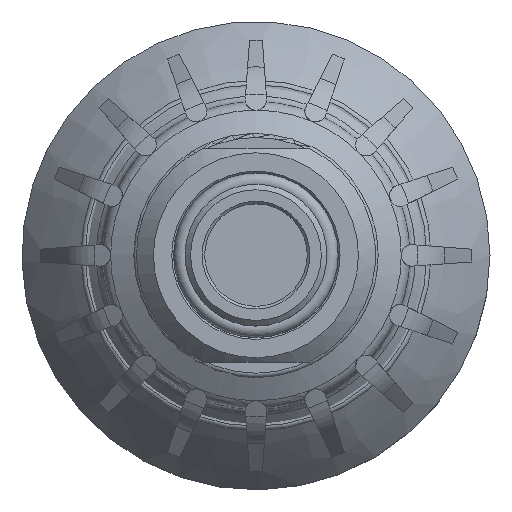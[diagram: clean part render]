
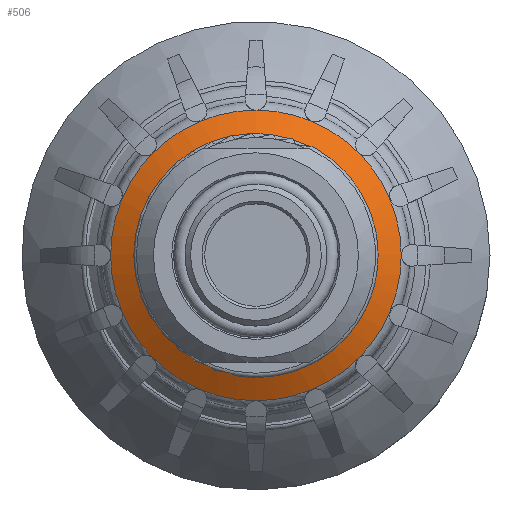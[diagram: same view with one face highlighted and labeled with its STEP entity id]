
A CAD part, top view. The second image highlights one B-rep face of the part: STEP entity #506.
In plain terms, the highlighted conical face has half-angle 59.914 degrees and reference radius 17.009 mm.
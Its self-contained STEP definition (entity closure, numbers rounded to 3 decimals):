
#506 = ADVANCED_FACE( '', ( #1572, #1573 ), #1574, .T. );
#1572 = FACE_OUTER_BOUND( '', #3103, .T. );
#1573 = FACE_BOUND( '', #3104, .T. );
#1574 = CONICAL_SURFACE( '', #3105, 17.009, 1.046 );
#3103 = EDGE_LOOP( '', ( #8547, #8548, #8549, #8550, #8551, #8552, #8553, #8554, #8555, #8556, #8557, #8558, #8559, #8560, #8561, #8562 ) );
#3104 = EDGE_LOOP( '', ( #8563 ) );
#3105 = AXIS2_PLACEMENT_3D( '', #8564, #8565, #8566 );
#8547 = ORIENTED_EDGE( '', *, *, #12080, .T. );
#8548 = ORIENTED_EDGE( '', *, *, #12469, .T. );
#8549 = ORIENTED_EDGE( '', *, *, #12397, .T. );
#8550 = ORIENTED_EDGE( '', *, *, #12246, .T. );
#8551 = ORIENTED_EDGE( '', *, *, #12470, .T. );
#8552 = ORIENTED_EDGE( '', *, *, #12471, .T. );
#8553 = ORIENTED_EDGE( '', *, *, #12472, .T. );
#8554 = ORIENTED_EDGE( '', *, *, #12339, .T. );
#8555 = ORIENTED_EDGE( '', *, *, #12335, .T. );
#8556 = ORIENTED_EDGE( '', *, *, #12473, .T. );
#8557 = ORIENTED_EDGE( '', *, *, #12415, .T. );
#8558 = ORIENTED_EDGE( '', *, *, #12375, .T. );
#8559 = ORIENTED_EDGE( '', *, *, #12474, .T. );
#8560 = ORIENTED_EDGE( '', *, *, #12475, .T. );
#8561 = ORIENTED_EDGE( '', *, *, #12476, .T. );
#8562 = ORIENTED_EDGE( '', *, *, #12477, .T. );
#8563 = ORIENTED_EDGE( '', *, *, #12478, .F. );
#8564 = CARTESIAN_POINT( '', ( 0., 0., 5.231 ) );
#8565 = DIRECTION( '', ( 0., 0., -1. ) );
#8566 = DIRECTION( '', ( -1., 0., 0. ) );
#12080 = EDGE_CURVE( '', #14288, #14402, #14404, .T. );
#12246 = EDGE_CURVE( '', #14703, #14704, #14705, .T. );
#12335 = EDGE_CURVE( '', #14684, #14795, #14854, .T. );
#12339 = EDGE_CURVE( '', #14857, #14684, #14860, .T. );
#12375 = EDGE_CURVE( '', #14916, #14920, #14922, .T. );
#12397 = EDGE_CURVE( '', #14954, #14703, #14959, .T. );
#12415 = EDGE_CURVE( '', #14127, #14916, #14989, .T. );
#12469 = EDGE_CURVE( '', #14402, #14954, #15067, .T. );
#12470 = EDGE_CURVE( '', #14704, #15068, #15069, .T. );
#12471 = EDGE_CURVE( '', #15068, #14972, #15070, .T. );
#12472 = EDGE_CURVE( '', #14972, #14857, #15071, .T. );
#12473 = EDGE_CURVE( '', #14795, #14127, #15072, .T. );
#12474 = EDGE_CURVE( '', #14920, #14982, #15073, .T. );
#12475 = EDGE_CURVE( '', #14982, #14837, #15074, .T. );
#12476 = EDGE_CURVE( '', #14837, #14266, #15075, .T. );
#12477 = EDGE_CURVE( '', #14266, #14288, #15076, .T. );
#12478 = EDGE_CURVE( '', #15077, #15077, #15078, .T. );
#14127 = VERTEX_POINT( '', #18568 );
#14266 = VERTEX_POINT( '', #18930 );
#14288 = VERTEX_POINT( '', #18998 );
#14402 = VERTEX_POINT( '', #19327 );
#14404 = CIRCLE( '', #19342, 17.009 );
#14684 = VERTEX_POINT( '', #20219 );
#14703 = VERTEX_POINT( '', #20291 );
#14704 = VERTEX_POINT( '', #20292 );
#14705 = CIRCLE( '', #20293, 17.009 );
#14795 = VERTEX_POINT( '', #20559 );
#14837 = VERTEX_POINT( '', #20694 );
#14854 = CIRCLE( '', #20771, 17.009 );
#14857 = VERTEX_POINT( '', #20779 );
#14860 = CIRCLE( '', #20795, 17.009 );
#14916 = VERTEX_POINT( '', #20899 );
#14920 = VERTEX_POINT( '', #20916 );
#14922 = CIRCLE( '', #20934, 17.009 );
#14954 = VERTEX_POINT( '', #21011 );
#14959 = CIRCLE( '', #21042, 17.009 );
#14972 = VERTEX_POINT( '', #21074 );
#14982 = VERTEX_POINT( '', #21110 );
#14989 = CIRCLE( '', #21159, 17.009 );
#15067 = CIRCLE( '', #21403, 17.009 );
#15068 = VERTEX_POINT( '', #21404 );
#15069 = CIRCLE( '', #21405, 17.009 );
#15070 = CIRCLE( '', #21406, 17.009 );
#15071 = CIRCLE( '', #21407, 17.009 );
#15072 = CIRCLE( '', #21408, 17.009 );
#15073 = CIRCLE( '', #21409, 17.009 );
#15074 = CIRCLE( '', #21410, 17.009 );
#15075 = CIRCLE( '', #21411, 17.009 );
#15076 = CIRCLE( '', #21412, 17.009 );
#15077 = VERTEX_POINT( '', #21413 );
#15078 = CIRCLE( '', #21414, 13.156 );
#18568 = CARTESIAN_POINT( '', ( -15.715, -6.509, 5.231 ) );
#18930 = CARTESIAN_POINT( '', ( 12.028, -12.028, 5.231 ) );
#18998 = CARTESIAN_POINT( '', ( 15.715, -6.509, 5.231 ) );
#19327 = CARTESIAN_POINT( '', ( 17.009, 0., 5.231 ) );
#19342 = AXIS2_PLACEMENT_3D( '', #29398, #29399, #29400 );
#20219 = CARTESIAN_POINT( '', ( -15.715, 6.509, 5.231 ) );
#20291 = CARTESIAN_POINT( '', ( 12.028, 12.028, 5.231 ) );
#20292 = CARTESIAN_POINT( '', ( 6.509, 15.715, 5.231 ) );
#20293 = AXIS2_PLACEMENT_3D( '', #29559, #29560, #29561 );
#20559 = CARTESIAN_POINT( '', ( -17.009, 0., 5.231 ) );
#20694 = CARTESIAN_POINT( '', ( 6.509, -15.715, 5.231 ) );
#20771 = AXIS2_PLACEMENT_3D( '', #29649, #29650, #29651 );
#20779 = CARTESIAN_POINT( '', ( -12.028, 12.028, 5.231 ) );
#20795 = AXIS2_PLACEMENT_3D( '', #29655, #29656, #29657 );
#20899 = CARTESIAN_POINT( '', ( -12.028, -12.028, 5.231 ) );
#20916 = CARTESIAN_POINT( '', ( -6.509, -15.715, 5.231 ) );
#20934 = AXIS2_PLACEMENT_3D( '', #29717, #29718, #29719 );
#21011 = CARTESIAN_POINT( '', ( 15.715, 6.509, 5.231 ) );
#21042 = AXIS2_PLACEMENT_3D( '', #29753, #29754, #29755 );
#21074 = CARTESIAN_POINT( '', ( -6.509, 15.715, 5.231 ) );
#21110 = CARTESIAN_POINT( '', ( 0., -17.009, 5.231 ) );
#21159 = AXIS2_PLACEMENT_3D( '', #29773, #29774, #29775 );
#21403 = AXIS2_PLACEMENT_3D( '', #29811, #29812, #29813 );
#21404 = CARTESIAN_POINT( '', ( 0., 17.009, 5.231 ) );
#21405 = AXIS2_PLACEMENT_3D( '', #29814, #29815, #29816 );
#21406 = AXIS2_PLACEMENT_3D( '', #29817, #29818, #29819 );
#21407 = AXIS2_PLACEMENT_3D( '', #29820, #29821, #29822 );
#21408 = AXIS2_PLACEMENT_3D( '', #29823, #29824, #29825 );
#21409 = AXIS2_PLACEMENT_3D( '', #29826, #29827, #29828 );
#21410 = AXIS2_PLACEMENT_3D( '', #29829, #29830, #29831 );
#21411 = AXIS2_PLACEMENT_3D( '', #29832, #29833, #29834 );
#21412 = AXIS2_PLACEMENT_3D( '', #29835, #29836, #29837 );
#21413 = CARTESIAN_POINT( '', ( 13.156, 0., 7.463 ) );
#21414 = AXIS2_PLACEMENT_3D( '', #29838, #29839, #29840 );
#29398 = CARTESIAN_POINT( '', ( 0., 0., 5.231 ) );
#29399 = DIRECTION( '', ( 0., 0., 1. ) );
#29400 = DIRECTION( '', ( 1., 0., 0. ) );
#29559 = CARTESIAN_POINT( '', ( 0., 0., 5.231 ) );
#29560 = DIRECTION( '', ( 0., 0., 1. ) );
#29561 = DIRECTION( '', ( 1., 0., 0. ) );
#29649 = CARTESIAN_POINT( '', ( 0., 0., 5.231 ) );
#29650 = DIRECTION( '', ( 0., 0., 1. ) );
#29651 = DIRECTION( '', ( 1., 0., 0. ) );
#29655 = CARTESIAN_POINT( '', ( 0., 0., 5.231 ) );
#29656 = DIRECTION( '', ( 0., 0., 1. ) );
#29657 = DIRECTION( '', ( 1., 0., 0. ) );
#29717 = CARTESIAN_POINT( '', ( 0., 0., 5.231 ) );
#29718 = DIRECTION( '', ( 0., 0., 1. ) );
#29719 = DIRECTION( '', ( 1., 0., 0. ) );
#29753 = CARTESIAN_POINT( '', ( 0., 0., 5.231 ) );
#29754 = DIRECTION( '', ( 0., 0., 1. ) );
#29755 = DIRECTION( '', ( 1., 0., 0. ) );
#29773 = CARTESIAN_POINT( '', ( 0., 0., 5.231 ) );
#29774 = DIRECTION( '', ( 0., 0., 1. ) );
#29775 = DIRECTION( '', ( 1., 0., 0. ) );
#29811 = CARTESIAN_POINT( '', ( 0., 0., 5.231 ) );
#29812 = DIRECTION( '', ( 0., 0., 1. ) );
#29813 = DIRECTION( '', ( 1., 0., 0. ) );
#29814 = CARTESIAN_POINT( '', ( 0., 0., 5.231 ) );
#29815 = DIRECTION( '', ( 0., 0., 1. ) );
#29816 = DIRECTION( '', ( 1., 0., 0. ) );
#29817 = CARTESIAN_POINT( '', ( 0., 0., 5.231 ) );
#29818 = DIRECTION( '', ( 0., 0., 1. ) );
#29819 = DIRECTION( '', ( 1., 0., 0. ) );
#29820 = CARTESIAN_POINT( '', ( 0., 0., 5.231 ) );
#29821 = DIRECTION( '', ( 0., 0., 1. ) );
#29822 = DIRECTION( '', ( 1., 0., 0. ) );
#29823 = CARTESIAN_POINT( '', ( 0., 0., 5.231 ) );
#29824 = DIRECTION( '', ( 0., 0., 1. ) );
#29825 = DIRECTION( '', ( 1., 0., 0. ) );
#29826 = CARTESIAN_POINT( '', ( 0., 0., 5.231 ) );
#29827 = DIRECTION( '', ( 0., 0., 1. ) );
#29828 = DIRECTION( '', ( 1., 0., 0. ) );
#29829 = CARTESIAN_POINT( '', ( 0., 0., 5.231 ) );
#29830 = DIRECTION( '', ( 0., 0., 1. ) );
#29831 = DIRECTION( '', ( 1., 0., 0. ) );
#29832 = CARTESIAN_POINT( '', ( 0., 0., 5.231 ) );
#29833 = DIRECTION( '', ( 0., 0., 1. ) );
#29834 = DIRECTION( '', ( 1., 0., 0. ) );
#29835 = CARTESIAN_POINT( '', ( 0., 0., 5.231 ) );
#29836 = DIRECTION( '', ( 0., 0., 1. ) );
#29837 = DIRECTION( '', ( 1., 0., 0. ) );
#29838 = CARTESIAN_POINT( '', ( 0., 0., 7.463 ) );
#29839 = DIRECTION( '', ( 0., 0., 1. ) );
#29840 = DIRECTION( '', ( 1., 0., 0. ) );
